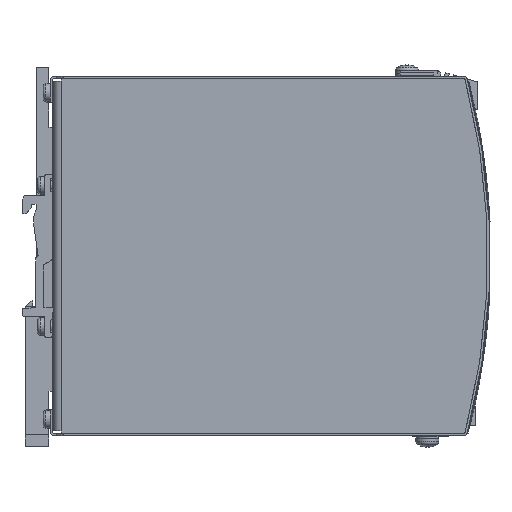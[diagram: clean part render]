
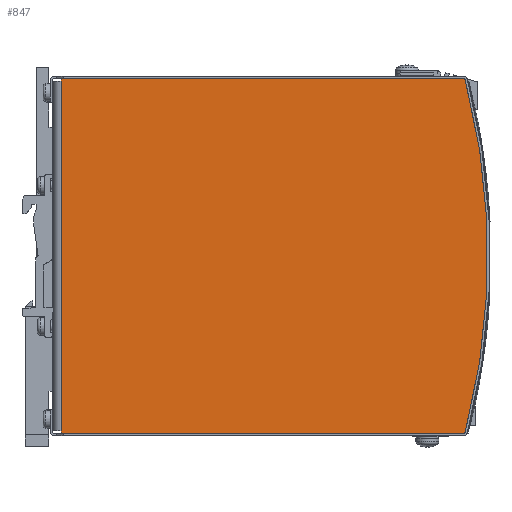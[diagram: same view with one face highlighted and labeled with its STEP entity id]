
A CAD part, front view. The second image highlights one B-rep face of the part: STEP entity #847.
In plain terms, the highlighted planar face has unit normal (0, -1, 0) as drawn and (-1, 0, 0) by its records, which use the part's own axes.
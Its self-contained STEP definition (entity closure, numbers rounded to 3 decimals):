
#294=CARTESIAN_POINT('',(-47.824,-60.001,3.));
#295=VERTEX_POINT('',#294);
#399=CARTESIAN_POINT('',(-47.824,-61.001,3.));
#400=VERTEX_POINT('',#399);
#401=CARTESIAN_POINT('',(-47.824,-61.001,3.));
#402=DIRECTION('',(0.0,1.0,0.0));
#403=VECTOR('',#402,1.);
#404=LINE('',#401,#403);
#405=EDGE_CURVE('',#400,#295,#404,.T.);
#480=CARTESIAN_POINT('',(-47.824,60.299,3.));
#481=VERTEX_POINT('',#480);
#488=CARTESIAN_POINT('',(-47.824,61.299,3.));
#489=VERTEX_POINT('',#488);
#490=CARTESIAN_POINT('',(-47.824,60.299,3.));
#491=DIRECTION('',(0.0,1.0,0.0));
#492=VECTOR('',#491,1.);
#493=LINE('',#490,#492);
#494=EDGE_CURVE('',#481,#489,#493,.T.);
#608=CARTESIAN_POINT('',(-47.824,-61.001,141.693));
#609=VERTEX_POINT('',#608);
#616=CARTESIAN_POINT('',(-47.824,-61.001,141.693));
#617=DIRECTION('',(0.0,0.0,-1.0));
#618=VECTOR('',#617,138.693);
#619=LINE('',#616,#618);
#620=EDGE_CURVE('',#609,#400,#619,.T.);
#713=CARTESIAN_POINT('',(-47.824,61.299,141.693));
#714=VERTEX_POINT('',#713);
#715=CARTESIAN_POINT('',(-47.824,61.299,3.));
#716=DIRECTION('',(0.0,0.0,1.0));
#717=VECTOR('',#716,138.693);
#718=LINE('',#715,#717);
#719=EDGE_CURVE('',#489,#714,#718,.T.);
#744=CARTESIAN_POINT('',(-47.824,-60.001,3.));
#745=DIRECTION('',(0.0,1.0,0.0));
#746=VECTOR('',#745,120.3);
#747=LINE('',#744,#746);
#748=EDGE_CURVE('',#295,#481,#747,.T.);
#765=CARTESIAN_POINT('',(-47.824,60.926,142.177));
#766=VERTEX_POINT('',#765);
#767=CARTESIAN_POINT('',(-47.824,60.799,141.693));
#768=DIRECTION('',(1.0,0.0,0.0));
#769=DIRECTION('',(0.0,0.792,0.611));
#770=AXIS2_PLACEMENT_3D('',#767,#768,#769);
#771=CIRCLE('',#770,0.5);
#772=EDGE_CURVE('',#714,#766,#771,.T.);
#799=CARTESIAN_POINT('',(-47.824,-60.628,142.177));
#800=VERTEX_POINT('',#799);
#801=CARTESIAN_POINT('',(-47.824,0.149,-90.));
#802=DIRECTION('',(-1.0,0.,0.));
#803=DIRECTION('',(0.,0.255,0.967));
#804=AXIS2_PLACEMENT_3D('',#801,#802,#803);
#805=CIRCLE('',#804,240.);
#806=EDGE_CURVE('',#800,#766,#805,.T.);
#826=CARTESIAN_POINT('',(-47.824,0.149,75.75));
#827=DIRECTION('',(1.0,0.0,0.0));
#828=DIRECTION('',(0.0,0.0,-1.0));
#829=AXIS2_PLACEMENT_3D('',#826,#827,#828);
#830=PLANE('',#829);
#831=ORIENTED_EDGE('',*,*,#772,.F.);
#832=ORIENTED_EDGE('',*,*,#719,.F.);
#833=ORIENTED_EDGE('',*,*,#494,.F.);
#834=ORIENTED_EDGE('',*,*,#748,.F.);
#835=ORIENTED_EDGE('',*,*,#405,.F.);
#836=ORIENTED_EDGE('',*,*,#620,.F.);
#837=CARTESIAN_POINT('',(-47.824,-60.501,141.693));
#838=DIRECTION('',(1.0,0.0,0.0));
#839=DIRECTION('',(0.0,-0.792,0.611));
#840=AXIS2_PLACEMENT_3D('',#837,#838,#839);
#841=CIRCLE('',#840,0.5);
#842=EDGE_CURVE('',#800,#609,#841,.T.);
#843=ORIENTED_EDGE('',*,*,#842,.F.);
#844=ORIENTED_EDGE('',*,*,#806,.T.);
#845=EDGE_LOOP('',(#831,#832,#833,#834,#835,#836,#843,#844));
#846=FACE_OUTER_BOUND('',#845,.T.);
#847=ADVANCED_FACE('',(#846),#830,.F.);
